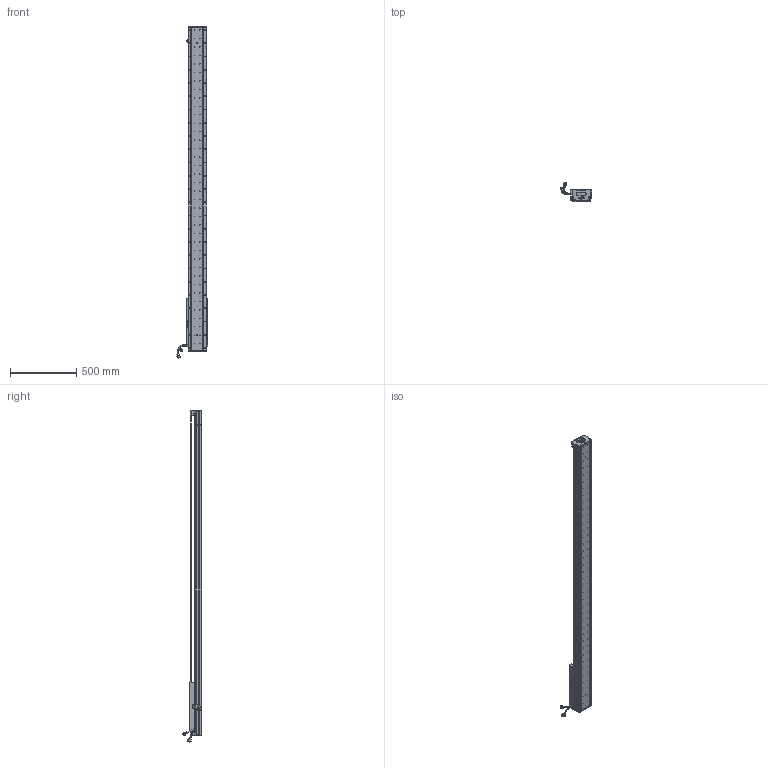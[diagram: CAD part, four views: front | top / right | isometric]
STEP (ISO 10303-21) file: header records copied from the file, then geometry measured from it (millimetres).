
FILE_DESCRIPTION (( 'STEP AP203' ), '1' );
FILE_NAME ('Z5-RY140D-1-L500-B-K.SLDASM_2000.step', '2021-05-17T08:38:29', ( '盈信电脑' ), ( '东莞市道滘镇水果街19号' ), 'SwSTEP 2.0', 'SolidWorks 2016', '' );
FILE_SCHEMA (( 'CONFIG_CONTROL_DESIGN' ));
Length unit declared in the file: millimetre
Products named in the file (36): SCREW-M1.7; SEAL; HARNESS; COVER; Z-140詩湍傷裔啣; SEAL-Part-1; HARNESS-Part-2; SCALE-Part-2; SCALE-Part-1; 080黍杅芛假蚾釱21遴; Z5-RY140D-1-L500-B-K.SLDASM_2000; SCREW-M1.6; COVER-Part-1; SHIELDPLATE; PBU_SHEET; Z5-RY140-L500詩湍100mm遵_2000; LABEL; Z5-RY140圉猾敕臏賑輸(21遴); HOLDER0; 詩湍奻揤裔; PSLH080_PSLF2; 榋妏寠巭燃_暯_M2_2; 140雄赽晤鎢ん堤盄; 詩湍狟揤裔; SCREW-M1.6-3; LABEL-Part-1; HARNESS-Part-1; SCALE; Z-RY140感应器672光电感应片; SCREW-M1.7-1; SCREW-M1.6-1; SCREW-M1.6-2; Z5-RY140-L500直线电机模组底座_2000; 140-Z-臏賑輸盄裔(21遴); 140蚥薯蝶輸; 覜茼ん672
Assembly tree (41 placements, depth 4):
  Z5-RY140D-1-L500-B-K.SLDASM_2000
    Z5-RY140-L500直线电机模组底座_2000
    Z-RY140感应器672光电感应片
    Z5-RY140圉猾敕臏賑輸(21遴)
    覜茼ん672  x3
    Z5-RY140-L500詩湍100mm遵_2000
    PSLH080_PSLF2
      SCALE
        SCALE-Part-1
        SCALE-Part-2
      HARNESS
        HARNESS-Part-1
        HARNESS-Part-2
      LABEL
        LABEL-Part-1
      COVER
        COVER-Part-1
      SEAL
        SEAL-Part-1
      榋妏寠巭燃_暯_M2_2
      SHIELDPLATE
      SCREW-M1.7
      SCREW-M1.7-1
      PBU_SHEET
      SCREW-M1.6
      SCREW-M1.6-1
      SCREW-M1.6-2
      SCREW-M1.6-3
      HOLDER0
    080黍杅芛假蚾釱21遴
    140-Z-臏賑輸盄裔(21遴)
    Z-140詩湍傷裔啣  x2
    詩湍狟揤裔  x2
    詩湍奻揤裔  x2
    140蚥薯蝶輸  x2
    140雄赽晤鎢ん堤盄
Bounding box: 239.84 x 143.88 x 2505.87 mm (x, y, z)
Volume: 8478881.4 mm3; surface area: 2170116.3 mm2
Topology: 36 solids, 36 shells, 4104 faces, 11144 edges, 7065 vertices
Faces by surface type: cylinder 2222, plane 1366, cone 394, torus 69, bspline 53
Entity records: 129868 total; most frequent: CARTESIAN_POINT 36365, ORIENTED_EDGE 19224, DIRECTION 17916, EDGE_CURVE 9612, AXIS2_PLACEMENT_3D 6680, VERTEX_POINT 6233, LINE 4556, VECTOR 4556
